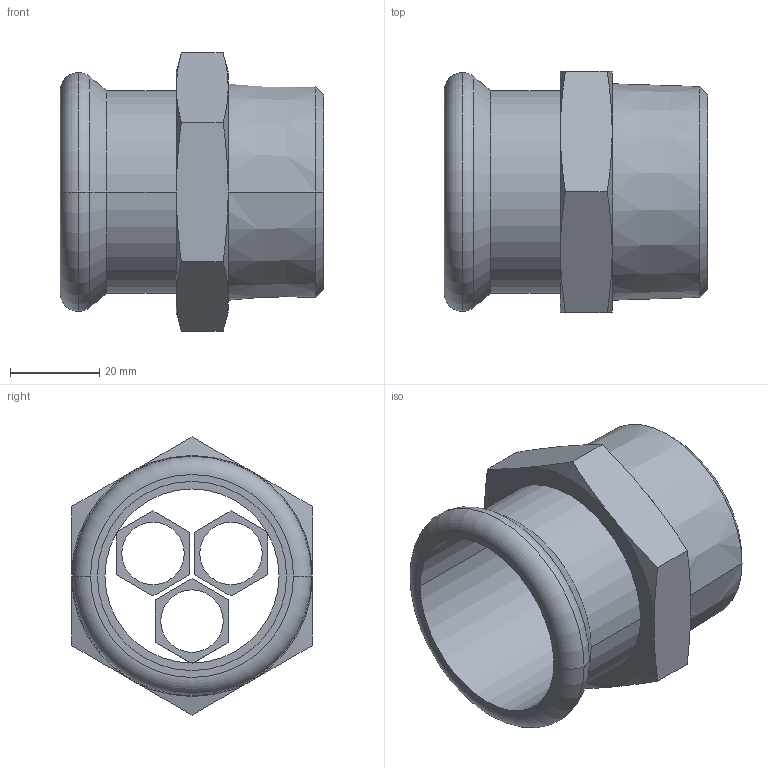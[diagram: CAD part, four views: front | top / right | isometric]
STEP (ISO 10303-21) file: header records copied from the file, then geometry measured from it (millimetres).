
FILE_DESCRIPTION(('OneSpaceDesigner STEP Export'),'2;1');
FILE_NAME('R2705 42xR1 1-2.stp','2010-06-09T11:11:36',(''),(''),'OneSpace Designer STEP processor for AP214 (Solid Model)','OneSpace Modeling 15.00A 14-Mar-2007 (C) CoCreate Software GmbH','');
FILE_SCHEMA(('AUTOMOTIVE_DESIGN { 1 0 10303 214 1 1 1 1 }'));
Length unit declared in the file: millimetre
Products named in the file (2): R2705_42xR1_1-2
Assembly tree (1 placements, depth 2):
  R2705_42xR1_1-2
    R2705_42xR1_1-2
Bounding box: 59 x 54 x 62.35 mm (x, y, z)
Volume: 37423.1 mm3; surface area: 20914.9 mm2
Topology: 1 solids, 1 shells, 75 faces, 181 edges, 114 vertices
Faces by surface type: plane 38, cone 18, cylinder 15, torus 4
Entity records: 2780 total; most frequent: CARTESIAN_POINT 1176, ORIENTED_EDGE 362, DIRECTION 255, EDGE_CURVE 181, VERTEX_POINT 114, VECTOR 93, LINE 93, EDGE_LOOP 89
